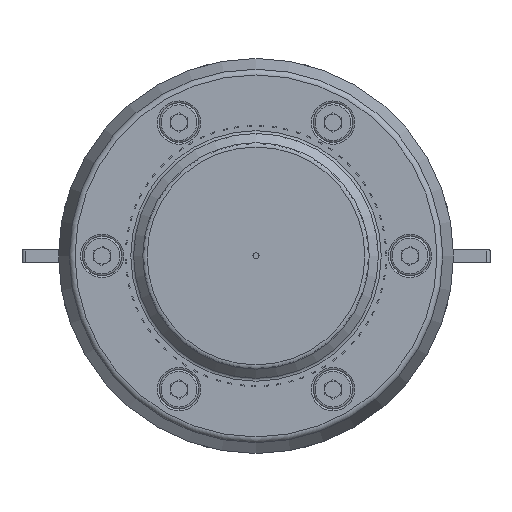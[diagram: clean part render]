
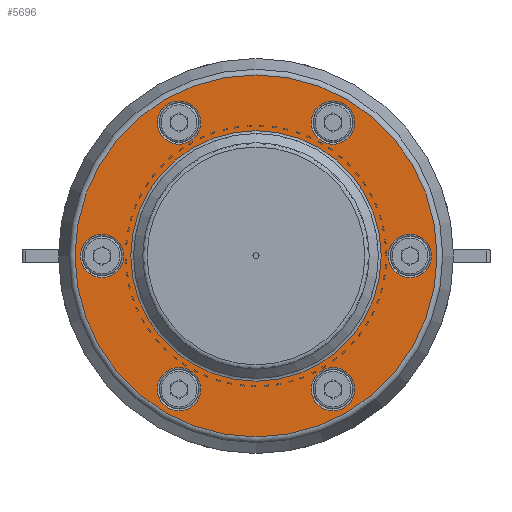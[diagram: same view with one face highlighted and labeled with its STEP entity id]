
A CAD part, top view. The second image highlights one B-rep face of the part: STEP entity #5696.
In plain terms, the highlighted planar face has unit normal (0, 0, 1).
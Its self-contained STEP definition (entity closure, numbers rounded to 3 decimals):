
#5696=ADVANCED_FACE('',(#19801,#19803,#19805,#19807,#19809,#19811,#19813,#19815),
#19817,.T.);
#19801=FACE_BOUND('',#19802,.T.);
#19802=EDGE_LOOP('',(#88044));
#19803=FACE_BOUND('',#19804,.T.);
#19804=EDGE_LOOP('',(#88045));
#19805=FACE_BOUND('',#19806,.T.);
#19806=EDGE_LOOP('',(#88046));
#19807=FACE_BOUND('',#19808,.T.);
#19808=EDGE_LOOP('',(#88047));
#19809=FACE_BOUND('',#19810,.T.);
#19810=EDGE_LOOP('',(#88048));
#19811=FACE_BOUND('',#19812,.T.);
#19812=EDGE_LOOP('',(#88049));
#19813=FACE_BOUND('',#19814,.T.);
#19814=EDGE_LOOP('',(#88050));
#19815=FACE_BOUND('',#19816,.T.);
#19816=EDGE_LOOP('',(#88051));
#19817=PLANE('',#19818);
#19818=AXIS2_PLACEMENT_3D('',#19819,#19820,#19821);
#19819=CARTESIAN_POINT('',(0.,0.,-12.));
#19820=DIRECTION('',(0.,0.,1.));
#19821=DIRECTION('',(-1.,0.,0.));
#88044=ORIENTED_EDGE('',*,*,#94113,.F.);
#88045=ORIENTED_EDGE('',*,*,#94114,.F.);
#88046=ORIENTED_EDGE('',*,*,#94115,.F.);
#88047=ORIENTED_EDGE('',*,*,#94116,.F.);
#88048=ORIENTED_EDGE('',*,*,#94117,.T.);
#88049=ORIENTED_EDGE('',*,*,#94118,.F.);
#88050=ORIENTED_EDGE('',*,*,#94119,.F.);
#88051=ORIENTED_EDGE('',*,*,#94120,.F.);
#94113=EDGE_CURVE('',#100192,#100192,#100193,.T.);
#94114=EDGE_CURVE('',#100194,#100194,#100195,.F.);
#94115=EDGE_CURVE('',#100196,#100196,#100197,.F.);
#94116=EDGE_CURVE('',#100198,#100198,#100199,.F.);
#94117=EDGE_CURVE('',#100200,#100200,#100201,.T.);
#94118=EDGE_CURVE('',#100202,#100202,#100203,.F.);
#94119=EDGE_CURVE('',#100204,#100204,#100205,.F.);
#94120=EDGE_CURVE('',#100206,#100206,#100207,.F.);
#100192=VERTEX_POINT('',#133961);
#100193=CIRCLE('',#133962,178.679);
#100194=VERTEX_POINT('',#133966);
#100195=CIRCLE('',#133967,21.4);
#100196=VERTEX_POINT('',#133971);
#100197=CIRCLE('',#133972,21.4);
#100198=VERTEX_POINT('',#133976);
#100199=CIRCLE('',#133977,21.4);
#100200=VERTEX_POINT('',#133981);
#100201=CIRCLE('',#133982,123.657);
#100202=VERTEX_POINT('',#133986);
#100203=CIRCLE('',#133987,21.4);
#100204=VERTEX_POINT('',#133991);
#100205=CIRCLE('',#133992,21.4);
#100206=VERTEX_POINT('',#133996);
#100207=CIRCLE('',#133997,21.4);
#133961=CARTESIAN_POINT('',(-178.679,0.,-12.));
#133962=AXIS2_PLACEMENT_3D('',#133963,#133964,#133965);
#133963=CARTESIAN_POINT('',(0.,0.,-12.));
#133964=DIRECTION('',(0.,0.,-1.));
#133965=DIRECTION('',(-1.,0.,0.));
#133966=CARTESIAN_POINT('',(-86.7,150.169,-12.));
#133967=AXIS2_PLACEMENT_3D('',#133968,#133969,#133970);
#133968=CARTESIAN_POINT('',(-76.,131.636,-12.));
#133969=DIRECTION('',(0.,0.,-1.));
#133970=DIRECTION('',(-0.5,0.866,0.));
#133971=CARTESIAN_POINT('',(173.4,0.,-12.));
#133972=AXIS2_PLACEMENT_3D('',#133973,#133974,#133975);
#133973=CARTESIAN_POINT('',(152.,0.,-12.));
#133974=DIRECTION('',(0.,0.,-1.));
#133975=DIRECTION('',(1.,0.,0.));
#133976=CARTESIAN_POINT('',(-86.7,-150.169,-12.));
#133977=AXIS2_PLACEMENT_3D('',#133978,#133979,#133980);
#133978=CARTESIAN_POINT('',(-76.,-131.636,-12.));
#133979=DIRECTION('',(0.,0.,-1.));
#133980=DIRECTION('',(-0.5,-0.866,0.));
#133981=CARTESIAN_POINT('',(-123.657,0.,-12.));
#133982=AXIS2_PLACEMENT_3D('',#133983,#133984,#133985);
#133983=CARTESIAN_POINT('',(0.,0.,-12.));
#133984=DIRECTION('',(0.,0.,-1.));
#133985=DIRECTION('',(-1.,0.,0.));
#133986=CARTESIAN_POINT('',(-173.4,0.,-12.));
#133987=AXIS2_PLACEMENT_3D('',#133988,#133989,#133990);
#133988=CARTESIAN_POINT('',(-152.,0.,-12.));
#133989=DIRECTION('',(0.,0.,-1.));
#133990=DIRECTION('',(-1.,0.,0.));
#133991=CARTESIAN_POINT('',(86.7,-150.169,-12.));
#133992=AXIS2_PLACEMENT_3D('',#133993,#133994,#133995);
#133993=CARTESIAN_POINT('',(76.,-131.636,-12.));
#133994=DIRECTION('',(0.,0.,-1.));
#133995=DIRECTION('',(0.5,-0.866,0.));
#133996=CARTESIAN_POINT('',(86.7,150.169,-12.));
#133997=AXIS2_PLACEMENT_3D('',#133998,#133999,#134000);
#133998=CARTESIAN_POINT('',(76.,131.636,-12.));
#133999=DIRECTION('',(0.,0.,-1.));
#134000=DIRECTION('',(0.5,0.866,0.));
